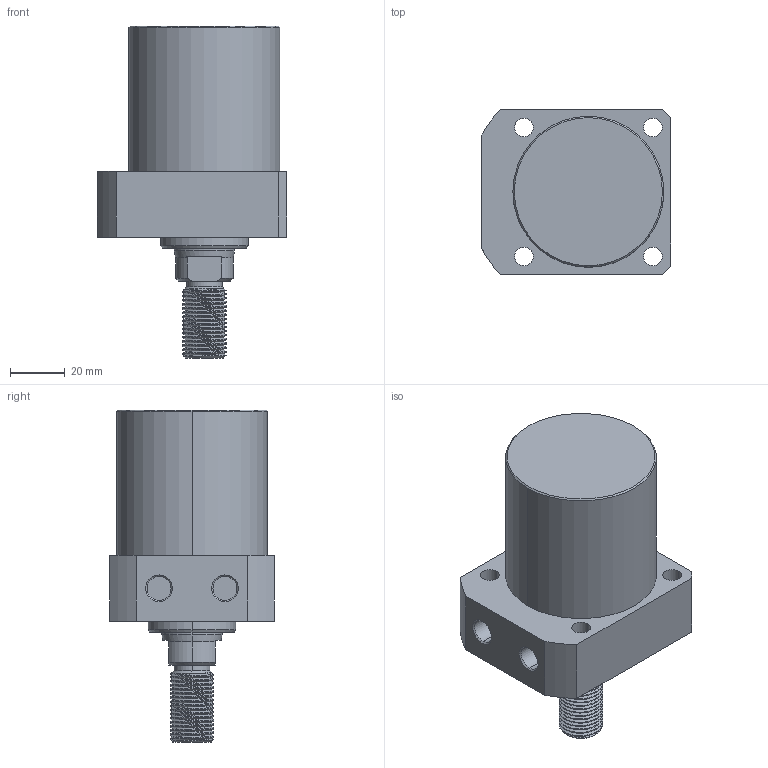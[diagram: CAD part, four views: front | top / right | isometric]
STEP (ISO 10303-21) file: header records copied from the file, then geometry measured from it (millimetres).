
FILE_DESCRIPTION (( 'STEP AP214' ), '1' );
FILE_NAME ('CLLR-055CT-040.STEP', '2020-01-09T00:23:38', ( 'Windows' ), ( 'Microsoft' ), 'SwSTEP 2.0', 'SolidWorks 2015', '' );
FILE_SCHEMA (( 'AUTOMOTIVE_DESIGN' ));
Length unit declared in the file: millimetre
Products named in the file (1): CLLR-055CT-040
Bounding box: 69 x 60 x 121 mm (x, y, z)
Volume: 230282.9 mm3; surface area: 29106.7 mm2
Topology: 1 solids, 1 shells, 101 faces, 260 edges, 169 vertices
Faces by surface type: cylinder 61, plane 20, cone 18, bspline 2
Entity records: 5038 total; most frequent: CARTESIAN_POINT 2691, ORIENTED_EDGE 520, DIRECTION 454, EDGE_CURVE 260, AXIS2_PLACEMENT_3D 177, VERTEX_POINT 169, EDGE_LOOP 117, FACE_OUTER_BOUND 101
